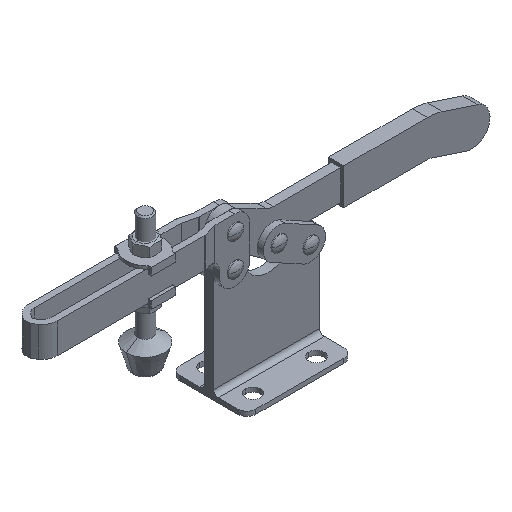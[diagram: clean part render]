
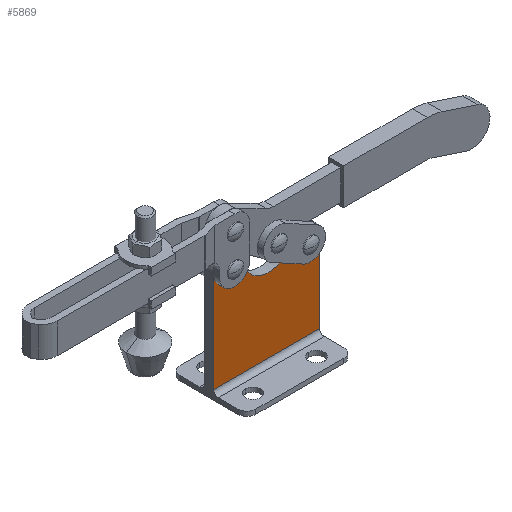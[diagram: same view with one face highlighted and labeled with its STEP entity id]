
A CAD part, isometric view. The second image highlights one B-rep face of the part: STEP entity #5869.
In plain terms, the highlighted planar face has unit normal (0, -1, 0).
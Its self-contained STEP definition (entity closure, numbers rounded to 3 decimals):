
#5447=CARTESIAN_POINT('Cartesian Point',(112.077,-3.,-17.5)) ;
#5452=CARTESIAN_POINT('Line Origine',(77.077,-3.,-17.5)) ;
#5456=CARTESIAN_POINT('Cartesian Point',(42.077,-3.,-17.5)) ;
#5739=CARTESIAN_POINT('Cartesian Point',(112.077,-3.,37.5)) ;
#5753=CARTESIAN_POINT('Cartesian Point',(92.838,-3.,41.326)) ;
#5756=CARTESIAN_POINT('Axis2P3D Location',(102.077,-3.,37.5)) ;
#5779=CARTESIAN_POINT('Cartesian Point',(62.068,-3.,48.096)) ;
#5782=CARTESIAN_POINT('Axis2P3D Location',(78.055,-3.,47.449)) ;
#5815=CARTESIAN_POINT('Cartesian Point',(62.077,-3.,48.5)) ;
#5818=CARTESIAN_POINT('Line Origine',(62.073,-3.,48.298)) ;
#5830=CARTESIAN_POINT('Axis2P3D Location',(112.077,-3.,58.5)) ;
#5835=CARTESIAN_POINT('Line Origine',(112.077,-3.,10.)) ;
#5840=CARTESIAN_POINT('Axis2P3D Location',(52.077,-3.,48.5)) ;
#5844=CARTESIAN_POINT('Cartesian Point',(52.077,-3.,58.5)) ;
#5847=CARTESIAN_POINT('Axis2P3D Location',(52.077,-3.,48.5)) ;
#5851=CARTESIAN_POINT('Cartesian Point',(42.077,-3.,48.5)) ;
#5854=CARTESIAN_POINT('Line Origine',(42.077,-3.,15.5)) ;
#5453=DIRECTION('Vector Direction',(-1.,0.,0.)) ;
#5757=DIRECTION('Axis2P3D Direction',(0.,-1.,0.)) ;
#5783=DIRECTION('Axis2P3D Direction',(0.,-1.,0.)) ;
#5819=DIRECTION('Vector Direction',(-0.02,0.,-1.)) ;
#5831=DIRECTION('Axis2P3D Direction',(0.,1.,0.)) ;
#5832=DIRECTION('Axis2P3D XDirection',(1.,0.,0.)) ;
#5836=DIRECTION('Vector Direction',(0.,0.,1.)) ;
#5841=DIRECTION('Axis2P3D Direction',(0.,1.,0.)) ;
#5848=DIRECTION('Axis2P3D Direction',(0.,1.,0.)) ;
#5855=DIRECTION('Vector Direction',(0.,0.,1.)) ;
#5758=AXIS2_PLACEMENT_3D('Circle Axis2P3D',#5756,#5757,$) ;
#5784=AXIS2_PLACEMENT_3D('Circle Axis2P3D',#5782,#5783,$) ;
#5833=AXIS2_PLACEMENT_3D('Plane Axis2P3D',#5830,#5831,#5832) ;
#5842=AXIS2_PLACEMENT_3D('Circle Axis2P3D',#5840,#5841,$) ;
#5849=AXIS2_PLACEMENT_3D('Circle Axis2P3D',#5847,#5848,$) ;
#5860=ORIENTED_EDGE('Oriented Edge',*,*,#5839,.T.) ;
#5861=ORIENTED_EDGE('Oriented Edge',*,*,#5760,.F.) ;
#5862=ORIENTED_EDGE('Oriented Edge',*,*,#5786,.T.) ;
#5863=ORIENTED_EDGE('Oriented Edge',*,*,#5822,.F.) ;
#5864=ORIENTED_EDGE('Oriented Edge',*,*,#5846,.F.) ;
#5865=ORIENTED_EDGE('Oriented Edge',*,*,#5853,.F.) ;
#5866=ORIENTED_EDGE('Oriented Edge',*,*,#5858,.F.) ;
#5867=ORIENTED_EDGE('Oriented Edge',*,*,#5458,.F.) ;
#5454=VECTOR('Line Direction',#5453,1.) ;
#5820=VECTOR('Line Direction',#5819,1.) ;
#5837=VECTOR('Line Direction',#5836,1.) ;
#5856=VECTOR('Line Direction',#5855,1.) ;
#5869=ADVANCED_FACE('',(#5868),#5834,.F.) ;
#5759=CIRCLE('generated circle',#5758,10.) ;
#5785=CIRCLE('generated circle',#5784,16.) ;
#5843=CIRCLE('generated circle',#5842,10.) ;
#5850=CIRCLE('generated circle',#5849,10.) ;
#5458=EDGE_CURVE('',#5448,#5457,#5455,.T.) ;
#5760=EDGE_CURVE('',#5754,#5740,#5759,.F.) ;
#5786=EDGE_CURVE('',#5754,#5780,#5785,.F.) ;
#5822=EDGE_CURVE('',#5816,#5780,#5821,.T.) ;
#5839=EDGE_CURVE('',#5448,#5740,#5838,.T.) ;
#5846=EDGE_CURVE('',#5845,#5816,#5843,.T.) ;
#5853=EDGE_CURVE('',#5852,#5845,#5850,.T.) ;
#5858=EDGE_CURVE('',#5457,#5852,#5857,.T.) ;
#5859=EDGE_LOOP('Oriented Loop',(#5860,#5861,#5862,#5863,#5864,#5865,#5866,#5867)) ;
#5868=FACE_OUTER_BOUND('Face Bound',#5859,.T.) ;
#5455=LINE('Line',#5452,#5454) ;
#5821=LINE('Line',#5818,#5820) ;
#5838=LINE('Line',#5835,#5837) ;
#5857=LINE('Line',#5854,#5856) ;
#5834=PLANE('Plane',#5833) ;
#5448=VERTEX_POINT('Vertex Point',#5447) ;
#5457=VERTEX_POINT('Vertex Point',#5456) ;
#5740=VERTEX_POINT('Vertex Point',#5739) ;
#5754=VERTEX_POINT('Vertex Point',#5753) ;
#5780=VERTEX_POINT('Vertex Point',#5779) ;
#5816=VERTEX_POINT('Vertex Point',#5815) ;
#5845=VERTEX_POINT('Vertex Point',#5844) ;
#5852=VERTEX_POINT('Vertex Point',#5851) ;
